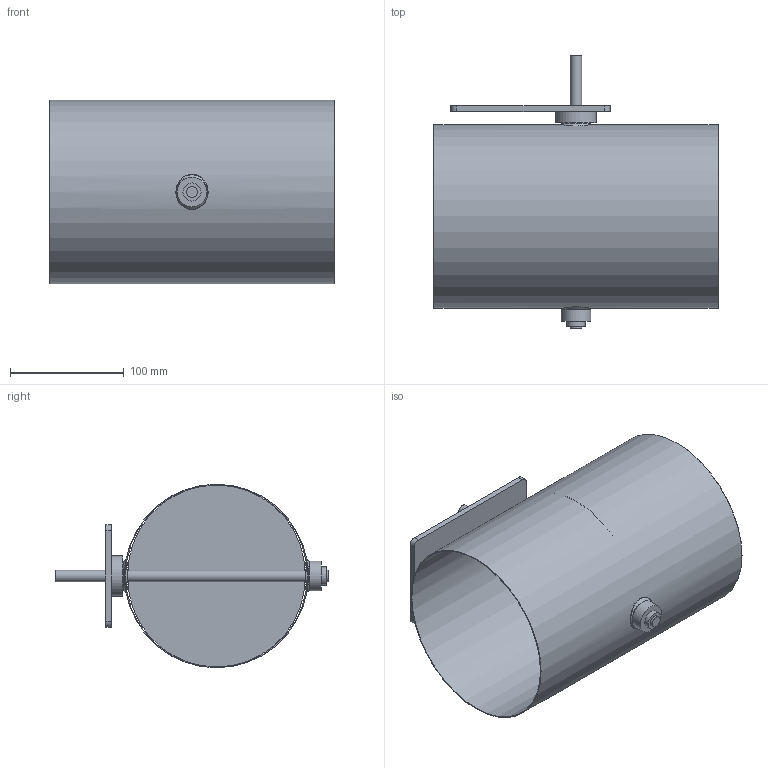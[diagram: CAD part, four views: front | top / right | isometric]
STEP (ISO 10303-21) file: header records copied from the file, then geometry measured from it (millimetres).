
FILE_DESCRIPTION(/* description */ (''),/* implementation_level */ '2;1');
FILE_NAME(/* name */ 'AA125-80B__160_L250_Belimo_Typ_NM.stp',/* time_stamp */ '2017-12-06T13:06:41+01:00',/* author */ (''),/* organization */ (''),/* preprocessor_version */ 'ST-DEVELOPER v11',/* originating_system */ 'SIEMENS UGS NX 6.0',/* authorisation */ '');
FILE_SCHEMA (('CONFIG_CONTROL_DESIGN'));
Length unit declared in the file: millimetre
Products named in the file (1): gars18E2j1zs
Bounding box: 250 x 241 x 161.6 mm (x, y, z)
Volume: 219275.6 mm3; surface area: 337775.8 mm2
Topology: 8 solids, 8 shells, 66 faces, 142 edges, 98 vertices
Faces by surface type: plane 28, cylinder 26, cone 4, bspline 4, torus 4
Full cylindrical faces by diameter (mm): 4.1 x4, 10 x3, 15 x3, 15.85 x2, 16 x2, 24 x2, 26 x1, 36 x1, 160 x1, 161.6 x1
Entity records: 2194 total; most frequent: CARTESIAN_POINT 841, DIRECTION 270, ORIENTED_EDGE 184, EDGE_LOOP 128, AXIS2_PLACEMENT_3D 123, FACE_BOUND 114, EDGE_CURVE 92, VERTEX_POINT 80
